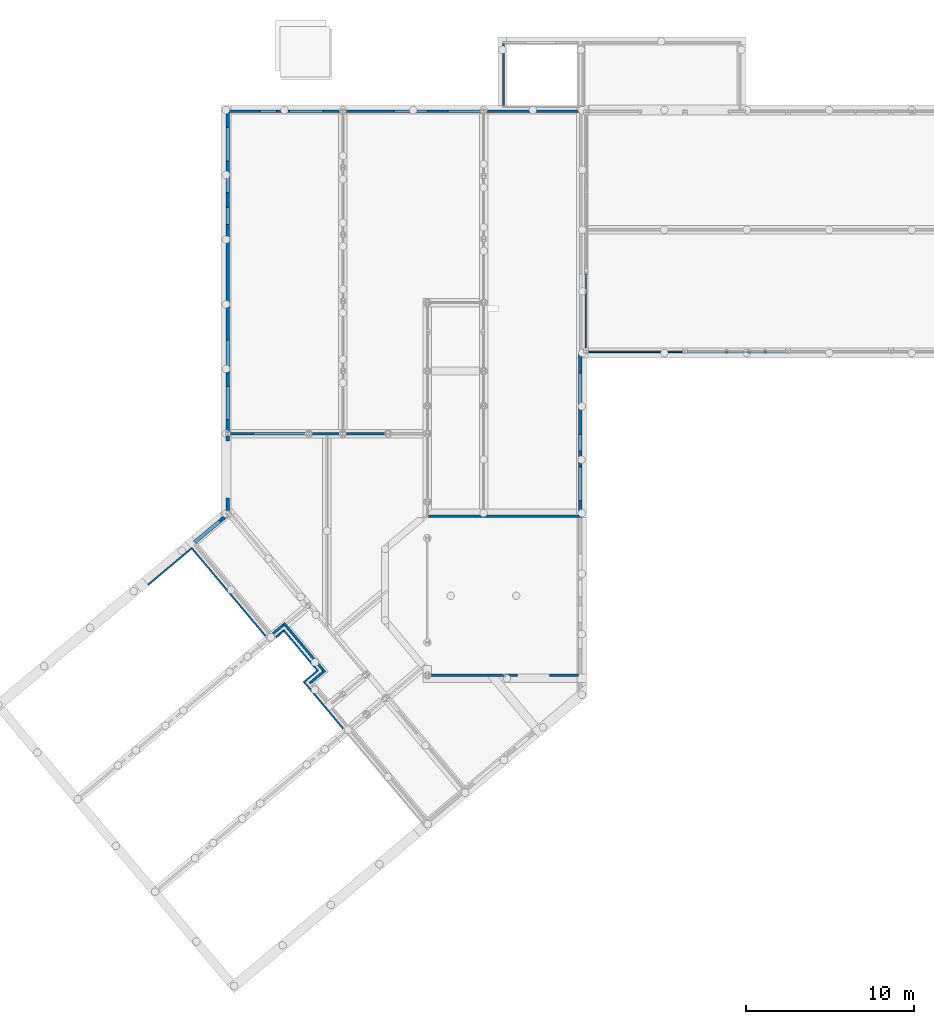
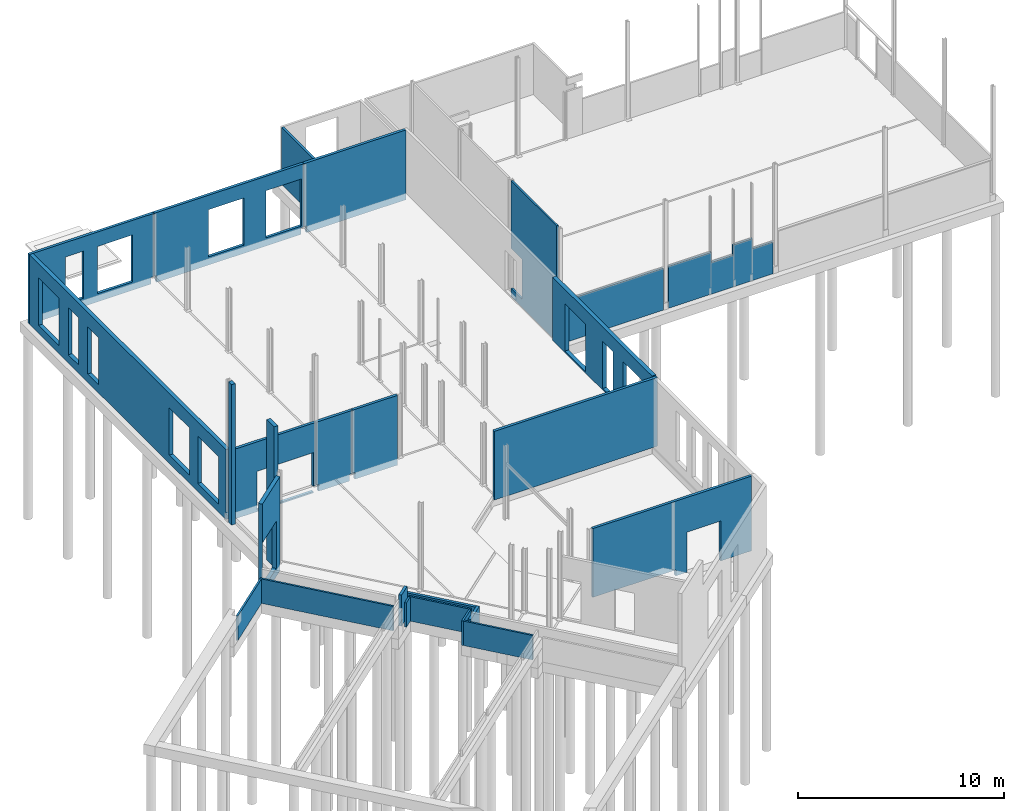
# One storey, part 16 of 18: 26 walls, 28 openings.
"""IFC2X3 building model written with IfcOpenShell, lengths in millimetres."""

from ifc_helpers import new_model, entity, si_unit, converted_unit, derived_unit, direction, frame, frame_2d, origin, origin_2d_with_axis, place, context, subcontext, project, spatial, rectangle, extrude, clip, halfspace, material, layer, layer_set, layer_usage, type_object, element, save


model = new_model("IFC2X3")

# Units and contexts
model_context = context("Model", 3, precision=0.01, world=origin(), true_north=direction((6.12303176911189e-17, 1.0)))
body_context = subcontext(model_context, "Body", "Model", "MODEL_VIEW")
ifc_project = project(units=[si_unit("LENGTHUNIT", "METRE", prefix="MILLI"), si_unit("AREAUNIT", "SQUARE_METRE"), si_unit("VOLUMEUNIT", "CUBIC_METRE"), converted_unit("PLANEANGLEUNIT", "DEGREE", entity("IfcRatioMeasure", 0.0174532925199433), si_unit("PLANEANGLEUNIT", "RADIAN"), dimensions=[0, 0, 0, 0, 0, 0, 0]), si_unit("MASSUNIT", "GRAM", prefix="KILO"), derived_unit("MASSDENSITYUNIT", [(si_unit("MASSUNIT", "GRAM", prefix="KILO"), 1), (si_unit("LENGTHUNIT", "METRE"), -3)]), derived_unit("MOMENTOFINERTIAUNIT", [(si_unit("LENGTHUNIT", "METRE"), 4)]), si_unit("TIMEUNIT", "SECOND"), si_unit("FREQUENCYUNIT", "HERTZ"), si_unit("THERMODYNAMICTEMPERATUREUNIT", "DEGREE_CELSIUS"), derived_unit("THERMALTRANSMITTANCEUNIT", [(si_unit("MASSUNIT", "GRAM", prefix="KILO"), 1), (si_unit("THERMODYNAMICTEMPERATUREUNIT", "KELVIN"), -1), (si_unit("TIMEUNIT", "SECOND"), -3)]), derived_unit("VOLUMETRICFLOWRATEUNIT", [(si_unit("LENGTHUNIT", "METRE"), 3), (si_unit("TIMEUNIT", "SECOND"), -1)]), si_unit("ELECTRICCURRENTUNIT", "AMPERE"), si_unit("ELECTRICVOLTAGEUNIT", "VOLT"), si_unit("POWERUNIT", "WATT"), si_unit("FORCEUNIT", "NEWTON", prefix="KILO"), si_unit("ILLUMINANCEUNIT", "LUX"), si_unit("LUMINOUSFLUXUNIT", "LUMEN"), si_unit("LUMINOUSINTENSITYUNIT", "CANDELA"), derived_unit("USERDEFINED", [(si_unit("MASSUNIT", "GRAM", prefix="KILO"), -1), (si_unit("LENGTHUNIT", "METRE"), -2), (si_unit("TIMEUNIT", "SECOND"), 3), (si_unit("LUMINOUSFLUXUNIT", "LUMEN"), 1)]), derived_unit("LINEARVELOCITYUNIT", [(si_unit("LENGTHUNIT", "METRE"), 1), (si_unit("TIMEUNIT", "SECOND"), -1)]), si_unit("PRESSUREUNIT", "PASCAL"), derived_unit("USERDEFINED", [(si_unit("LENGTHUNIT", "METRE"), -2), (si_unit("MASSUNIT", "GRAM", prefix="KILO"), 1), (si_unit("TIMEUNIT", "SECOND"), -2)]), derived_unit("LINEARFORCEUNIT", [(si_unit("MASSUNIT", "GRAM", prefix="KILO"), 1), (si_unit("LENGTHUNIT", "METRE"), 1), (si_unit("TIMEUNIT", "SECOND"), -2), (si_unit("LENGTHUNIT", "METRE"), -1)]), derived_unit("PLANARFORCEUNIT", [(si_unit("MASSUNIT", "GRAM", prefix="KILO"), 1), (si_unit("LENGTHUNIT", "METRE"), 1), (si_unit("TIMEUNIT", "SECOND"), -2), (si_unit("LENGTHUNIT", "METRE"), -2)])], contexts=[model_context])

# Site, building, storey
site_placement = place(None, origin())
site = spatial("IfcSite", under=ifc_project, at=site_placement, Name="Default", CompositionType="ELEMENT")
building_placement = place(site_placement, origin())
building = spatial("IfcBuilding", under=site, at=building_placement, CompositionType="ELEMENT")
storey_placement = place(building_placement, frame((0.0, 0.0, -1085.0)))
storey = spatial("IfcBuildingStorey", under=building, at=storey_placement, Name="-00 fundatie", CompositionType="ELEMENT", Elevation=-1085.0)

# Wall, openings
ifc_material_1 = material(Name="f1_kalkzandsteen")
ifc_layer_1 = layer(ifc_material_1, 214.0)
ifc_layer_set_1 = layer_set([ifc_layer_1], Name="Basic Wall:BERSnl_22_WA_kalkzandsteen214")
ifc_layer_usage_1 = layer_usage(ifc_layer_set_1, "AXIS2", "NEGATIVE", 107.0)
wall_type_1 = type_object("IfcWallType", Name="Basic Wall:BERSnl_22_WA_kalkzandsteen214", PredefinedType="STANDARD", material=ifc_layer_set_1)
wall_1_placement = place(storey_placement, frame((13702.4349765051, 16287.2966282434, 600.0), z_axis=(0.0, 0.0, 1.0), x_axis=(0.0, 1.0, 0.0)))
wall_1 = element("IfcWallStandardCase", 1, at=wall_1_placement, inside=storey, type_object=wall_type_1, material=ifc_layer_usage_1, Name="Basic Wall:BERSnl_22_WA_kalkzandsteen214", ObjectType="Basic Wall:BERSnl_22_WA_kalkzandsteen214", context=body_context, shape_type="SweptSolid", body=[
    extrude(rectangle(XDim=19059.0, YDim=213.999999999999, at=frame_2d((9529.49999999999, 3.41060513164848e-13), x_axis=(-1.0, 0.0))), origin(), (0.0, 0.0, 1.0), 4135.0),
])
opening_1_placement = place(wall_1_placement, origin())
element("IfcOpeningElement", 2, at=opening_1_placement, cuts=wall_1, Name="Basic Wall:BERSnl_22_WA_kalkzandsteen214", ObjectType="Opening", context=body_context, shape_type="SweptSolid", body=[
    extrude(rectangle(XDim=2800.00000000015, YDim=1986.0, at=origin_2d_with_axis()), frame((17174.0, -107.0, 1885.0), z_axis=(0.0, 1.0, 0.0), x_axis=(0.0, 0.0, -1.0)), (0.0, 0.0, 1.0), 213.999999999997),
])
opening_2_placement = place(wall_1_placement, origin())
element("IfcOpeningElement", 3, at=opening_2_placement, cuts=wall_1, Name="Basic Wall:BERSnl_22_WA_kalkzandsteen214", ObjectType="Opening", context=body_context, shape_type="SweptSolid", body=[
    extrude(rectangle(XDim=2798.00469337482, YDim=1038.0, at=frame_2d((0.0, -2.1600499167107e-12), x_axis=(1.0, 0.0))), frame((12888.1777390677, -107.0, 1884.00234668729), z_axis=(0.0, 1.0, 0.0), x_axis=(0.0, 0.0, -1.0)), (0.0, 0.0, 1.0), 213.999999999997),
])
opening_3_placement = place(wall_1_placement, origin())
element("IfcOpeningElement", 4, at=opening_3_placement, cuts=wall_1, Name="Basic Wall:BERSnl_22_WA_kalkzandsteen214", ObjectType="Opening", context=body_context, shape_type="SweptSolid", body=[
    extrude(rectangle(XDim=2801.44984403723, YDim=1986.0, at=origin_2d_with_axis()), frame((4500.17773906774, -107.0, 1885.72492201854), z_axis=(0.0, 1.0, 0.0), x_axis=(0.0, 0.0, -1.0)), (0.0, 0.0, 1.0), 213.999999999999),
])
opening_4_placement = place(wall_1_placement, origin())
element("IfcOpeningElement", 5, at=opening_4_placement, cuts=wall_1, Name="Basic Wall:BERSnl_22_WA_kalkzandsteen214", ObjectType="Opening", context=body_context, shape_type="SweptSolid", body=[
    extrude(rectangle(XDim=2801.44984403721, YDim=1986.44267041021, at=origin_2d_with_axis()), frame((1729.95640386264, -107.0, 1885.72492201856), z_axis=(0.0, 1.0, 0.0), x_axis=(0.0, 0.0, -1.0)), (0.0, 0.0, 1.0), 213.999999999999),
])
opening_5_placement = place(wall_1_placement, origin())
element("IfcOpeningElement", 6, at=opening_5_placement, cuts=wall_1, Name="Basic Wall:BERSnl_22_WA_kalkzandsteen214", ObjectType="Opening", context=body_context, shape_type="SweptSolid", body=[
    extrude(rectangle(XDim=2799.99999999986, YDim=986.000000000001, at=origin_2d_with_axis()), frame((14794.1777390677, -107.0, 1885.0), z_axis=(0.0, 1.0, 0.0), x_axis=(0.0, 0.0, -1.0)), (0.0, 0.0, 1.0), 213.999999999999),
])

# Walls
ifc_layer_usage_2 = layer_usage(ifc_layer_set_1, "AXIS2", "NEGATIVE", 107.0)
wall_2_placement = place(storey_placement, frame((13702.4349765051, 15731.2441702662, 600.0), z_axis=(0.0, 0.0, 1.0), x_axis=(0.0, 1.0, 0.0)))
element("IfcWallStandardCase", 7, at=wall_2_placement, inside=storey, type_object=wall_type_1, material=ifc_layer_usage_2, Name="Basic Wall:BERSnl_22_WA_kalkzandsteen214", ObjectType="Basic Wall:BERSnl_22_WA_kalkzandsteen214", context=body_context, shape_type="SweptSolid", body=[
    extrude(rectangle(XDim=301.052457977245, YDim=213.999999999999, at=frame_2d((150.526228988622, 0.0), x_axis=(-1.0, 0.0))), origin(), (0.0, 0.0, 1.0), 8325.0),
])
ifc_layer_usage_3 = layer_usage(ifc_layer_set_1, "AXIS2", "NEGATIVE", 107.0)
wall_3_placement = place(storey_placement, frame((13702.4349765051, 11611.2441702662, 600.0), z_axis=(0.0, 0.0, 1.0), x_axis=(0.0, 1.0, 0.0)))
element("IfcWallStandardCase", 8, at=wall_3_placement, inside=storey, type_object=wall_type_1, material=ifc_layer_usage_3, Name="Basic Wall:BERSnl_22_WA_kalkzandsteen214", ObjectType="Basic Wall:BERSnl_22_WA_kalkzandsteen214", context=body_context, shape_type="SweptSolid", body=[
    extrude(rectangle(XDim=719.999999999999, YDim=213.999999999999, at=frame_2d((359.999999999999, 0.0), x_axis=(-1.0, 0.0))), origin(), (0.0, 0.0, 1.0), 8325.0),
])

# Wall, opening
ifc_layer_usage_4 = layer_usage(ifc_layer_set_1, "AXIS2", "NEGATIVE", 107.0)
wall_4_placement = place(storey_placement, frame((11720.6058077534, 9695.07743050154, 600.0), z_axis=(0.0, 0.0, 1.0), x_axis=(0.766044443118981, 0.642787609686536, 0.0)))
wall_4 = element("IfcWallStandardCase", 9, at=wall_4_placement, inside=storey, type_object=wall_type_1, material=ifc_layer_usage_4, Name="Basic Wall:BERSnl_22_WA_kalkzandsteen214", ObjectType="Basic Wall:BERSnl_22_WA_kalkzandsteen214", context=body_context, shape_type="SweptSolid", body=[
    extrude(rectangle(XDim=2510.0000000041, YDim=214.0, at=frame_2d((1255.00000000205, 1.56319401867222e-13), x_axis=(-1.0, 0.0))), origin(), (0.0, 0.0, 1.0), 5585.0),
])
opening_6_placement = place(wall_4_placement, origin())
element("IfcOpeningElement", 10, at=opening_6_placement, cuts=wall_4, Name="Basic Wall:BERSnl_22_WA_kalkzandsteen214", ObjectType="Opening", context=body_context, shape_type="SweptSolid", body=[
    extrude(rectangle(XDim=2800.0, YDim=1968.62320900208, at=frame_2d((0.0, -4.54747350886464e-13), x_axis=(1.0, 0.0))), frame((985.307799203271, -107.0, 1885.0), z_axis=(0.0, 1.0, 0.0), x_axis=(0.0, 0.0, -1.0)), (0.0, 0.0, 1.0), 213.999999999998),
])

# Wall, openings
ifc_layer_usage_5 = layer_usage(ifc_layer_set_1, "AXIS2", "NEGATIVE", 107.0)
wall_5_placement = place(storey_placement, frame((34726.4270571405, 11342.2966282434, 995.0), z_axis=(0.0, 0.0, 1.0), x_axis=(0.0, 1.0, 0.0)))
wall_5 = element("IfcWallStandardCase", 11, at=wall_5_placement, inside=storey, type_object=wall_type_1, material=ifc_layer_usage_5, Name="Basic Wall:BERSnl_22_WA_kalkzandsteen214", ObjectType="Basic Wall:BERSnl_22_WA_kalkzandsteen214", context=body_context, shape_type="SweptSolid", body=[
    extrude(rectangle(XDim=9654.00000000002, YDim=214.000000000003, at=frame_2d((4827.00000000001, -5.47117906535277e-13), x_axis=(-1.0, 0.0))), origin(), (0.0, 0.0, 1.0), 3740.0),
])
opening_7_placement = place(wall_5_placement, origin())
element("IfcOpeningElement", 12, at=opening_7_placement, cuts=wall_5, Name="Basic Wall:BERSnl_22_WA_kalkzandsteen214", ObjectType="Opening", context=body_context, shape_type="SweptSolid", body=[
    extrude(rectangle(XDim=2800.0, YDim=1995.0, at=frame_2d((0.0, -1.08002495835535e-12), x_axis=(1.0, 0.0))), frame((7459.83704211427, -107.0, 1490.0), z_axis=(0.0, 1.0, 0.0), x_axis=(0.0, 0.0, -1.0)), (0.0, 0.0, 1.0), 214.000000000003),
])
opening_8_placement = place(wall_5_placement, origin())
element("IfcOpeningElement", 13, at=opening_8_placement, cuts=wall_5, Name="Basic Wall:BERSnl_22_WA_kalkzandsteen214", ObjectType="Opening", context=body_context, shape_type="SweptSolid", body=[
    extrude(rectangle(XDim=2799.99999999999, YDim=985.999999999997, at=origin_2d_with_axis()), frame((4305.33704211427, -107.0, 1490.0), z_axis=(0.0, 1.0, 0.0), x_axis=(0.0, 0.0, -1.0)), (0.0, 0.0, 1.0), 214.000000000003),
])
opening_9_placement = place(wall_5_placement, origin())
element("IfcOpeningElement", 14, at=opening_9_placement, cuts=wall_5, Name="Basic Wall:BERSnl_22_WA_kalkzandsteen214", ObjectType="Opening", context=body_context, shape_type="SweptSolid", body=[
    extrude(rectangle(XDim=2800.0, YDim=1986.0, at=frame_2d((0.0, -1.13686837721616e-12), x_axis=(1.0, 0.0))), frame((1845.31397196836, -107.0, 1490.0), z_axis=(0.0, 1.0, 0.0), x_axis=(0.0, 0.0, -1.0)), (0.0, 0.0, 1.0), 214.000000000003),
])

ifc_layer_2 = layer(ifc_material_1, 150.0)
ifc_layer_set_2 = layer_set([ifc_layer_2], Name="Basic Wall:BERSnl_22_WA_kalkzandsteen150")
ifc_layer_usage_6 = layer_usage(ifc_layer_set_2, "AXIS2", "NEGATIVE", 75.0)
wall_type_2 = type_object("IfcWallType", Name="Basic Wall:BERSnl_22_WA_kalkzandsteen150", PredefinedType="STANDARD", material=ifc_layer_set_2)
wall_6_placement = place(storey_placement, frame((13595.4349765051, 35421.2966282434, 600.0)))
wall_6 = element("IfcWallStandardCase", 15, at=wall_6_placement, inside=storey, type_object=wall_type_2, material=ifc_layer_usage_6, Name="Basic Wall:BERSnl_22_WA_kalkzandsteen150", ObjectType="Basic Wall:BERSnl_22_WA_kalkzandsteen150", context=body_context, shape_type="SweptSolid", body=[
    extrude(rectangle(XDim=6964.0, YDim=150.000000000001, at=frame_2d((3482.0, 0.0), x_axis=(-1.0, 0.0))), origin(), (0.0, 0.0, 1.0), 4135.0),
])
opening_10_placement = place(wall_6_placement, origin())
element("IfcOpeningElement", 16, at=opening_10_placement, cuts=wall_6, Name="Basic Wall:BERSnl_22_WA_kalkzandsteen150", ObjectType="Opening", context=body_context, shape_type="SweptSolid", body=[
    extrude(rectangle(XDim=2792.99999999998, YDim=985.999999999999, at=frame_2d((0.0, -1.10844666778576e-12), x_axis=(1.0, 0.0))), frame((2525.0, -75.0, 1881.49999999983), z_axis=(0.0, 1.0, 0.0), x_axis=(0.0, 0.0, -1.0)), (0.0, 0.0, 1.0), 150.000000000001),
])
opening_11_placement = place(wall_6_placement, origin())
element("IfcOpeningElement", 17, at=opening_11_placement, cuts=wall_6, Name="Basic Wall:BERSnl_22_WA_kalkzandsteen150", ObjectType="Opening", context=body_context, shape_type="SweptSolid", body=[
    extrude(rectangle(XDim=2792.99999999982, YDim=1986.0, at=origin_2d_with_axis()), frame((4795.0, -75.0, 1881.49999999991), z_axis=(0.0, 1.0, 0.0), x_axis=(0.0, 0.0, -1.0)), (0.0, 0.0, 1.0), 150.000000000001),
])
opening_12_placement = place(wall_6_placement, origin())
element("IfcOpeningElement", 18, at=opening_12_placement, cuts=wall_6, Name="Basic Wall:BERSnl_22_WA_kalkzandsteen150", ObjectType="Opening", context=body_context, shape_type="SweptSolid", body=[
    extrude(rectangle(XDim=395.0, YDim=139.999999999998, at=frame_2d((2.16715534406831e-12, -4.48636683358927e-11), x_axis=(0.0, 1.0))), frame((6894.0, 75.0, 197.499999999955), z_axis=(0.0, -1.0, 0.0), x_axis=(1.0, 0.0, 0.0)), (0.0, 0.0, 1.0), 150.0),
])

ifc_layer_usage_7 = layer_usage(ifc_layer_set_2, "AXIS2", "POSITIVE", -75.0)
wall_7_placement = place(storey_placement, frame((28949.4349765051, 35421.2966282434, 600.0), z_axis=(0.0, 0.0, 1.0), x_axis=(-1.0, 0.0, 0.0)))
wall_7 = element("IfcWallStandardCase", 19, at=wall_7_placement, inside=storey, type_object=wall_type_2, material=ifc_layer_usage_7, Name="Basic Wall:BERSnl_22_WA_kalkzandsteen150", ObjectType="Basic Wall:BERSnl_22_WA_kalkzandsteen150", context=body_context, shape_type="SweptSolid", body=[
    extrude(rectangle(XDim=8360.00000000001, YDim=150.000000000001, at=frame_2d((4180.0, 0.0), x_axis=(-1.0, 0.0))), origin(), (0.0, 0.0, 1.0), 4135.0),
])
opening_13_placement = place(wall_7_placement, origin())
element("IfcOpeningElement", 20, at=opening_13_placement, cuts=wall_7, Name="Basic Wall:BERSnl_22_WA_kalkzandsteen150", ObjectType="Opening", context=body_context, shape_type="SweptSolid", body=[
    extrude(rectangle(XDim=2792.99999999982, YDim=1986.0, at=origin_2d_with_axis()), frame((4329.0, -75.0, 1881.49999999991), z_axis=(0.0, 1.0, 0.0), x_axis=(0.0, 0.0, -1.0)), (0.0, 0.0, 1.0), 150.000000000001),
])
opening_14_placement = place(wall_7_placement, origin())
element("IfcOpeningElement", 21, at=opening_14_placement, cuts=wall_7, Name="Basic Wall:BERSnl_22_WA_kalkzandsteen150", ObjectType="Opening", context=body_context, shape_type="SweptSolid", body=[
    extrude(rectangle(XDim=2792.99999999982, YDim=1992.00000000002, at=origin_2d_with_axis()), frame((1116.0, -75.0, 1881.49999999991), z_axis=(0.0, 1.0, 0.0), x_axis=(0.0, 0.0, -1.0)), (0.0, 0.0, 1.0), 150.000000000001),
])
opening_15_placement = place(wall_7_placement, origin())
element("IfcOpeningElement", 22, at=opening_15_placement, cuts=wall_7, Name="Basic Wall:BERSnl_22_WA_kalkzandsteen150", ObjectType="Opening", context=body_context, shape_type="SweptSolid", body=[
    extrude(rectangle(XDim=395.0, YDim=130.000000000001, at=frame_2d((2.16715534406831e-12, -4.49773551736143e-11), x_axis=(0.0, 1.0))), frame((8295.0, 75.0, 197.499999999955), z_axis=(0.0, -1.0, 0.0), x_axis=(1.0, 0.0, 0.0)), (0.0, 0.0, 1.0), 150.0),
])
opening_16_placement = place(wall_7_placement, origin())
element("IfcOpeningElement", 23, at=opening_16_placement, cuts=wall_7, Name="Basic Wall:BERSnl_22_WA_kalkzandsteen150", ObjectType="Opening", context=body_context, shape_type="SweptSolid", body=[
    extrude(rectangle(XDim=394.999999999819, YDim=130.000000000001, at=frame_2d((4.5162096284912e-11, 2.1600499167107e-12), x_axis=(1.0, 0.0))), frame((65.0, 75.0, 197.499999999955), z_axis=(0.0, -1.0, 0.0), x_axis=(0.0, 0.0, -1.0)), (0.0, 0.0, 1.0), 150.0),
])

# Wall, opening
ifc_layer_usage_8 = layer_usage(ifc_layer_set_2, "AXIS2", "NEGATIVE", 75.0)
wall_8_placement = place(storey_placement, frame((28984.4349765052, 35421.2966282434, 600.0)))
wall_8 = element("IfcWallStandardCase", 24, at=wall_8_placement, inside=storey, type_object=wall_type_2, material=ifc_layer_usage_8, Name="Basic Wall:BERSnl_22_WA_kalkzandsteen150", ObjectType="Basic Wall:BERSnl_22_WA_kalkzandsteen150", context=body_context, shape_type="SweptSolid", body=[
    extrude(rectangle(XDim=5698.99208063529, YDim=150.000000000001, at=frame_2d((2849.49604031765, 0.0), x_axis=(-1.0, 0.0))), origin(), (0.0, 0.0, 1.0), 4135.0),
])
opening_17_placement = place(wall_8_placement, origin())
element("IfcOpeningElement", 25, at=opening_17_placement, cuts=wall_8, Name="Basic Wall:BERSnl_22_WA_kalkzandsteen150", ObjectType="Opening", context=body_context, shape_type="SweptSolid", body=[
    extrude(rectangle(XDim=394.999999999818, YDim=135.0, at=frame_2d((4.55600002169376e-11, -2.1600499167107e-12), x_axis=(1.0, 0.0))), frame((67.5000000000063, 75.0, 197.499999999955), z_axis=(0.0, -1.0, 0.0), x_axis=(0.0, 0.0, -1.0)), (0.0, 0.0, 1.0), 150.0),
])

# Wall
ifc_layer_usage_9 = layer_usage(ifc_layer_set_2, "AXIS2", "NEGATIVE", 75.0)
wall_9_placement = place(storey_placement, frame((34833.4270571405, 11267.2966282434, 600.0), z_axis=(0.0, 0.0, 1.0), x_axis=(-1.0, 0.0, 0.0)))
element("IfcWallStandardCase", 26, at=wall_9_placement, inside=storey, type_object=wall_type_2, material=ifc_layer_usage_9, Name="Basic Wall:BERSnl_22_WA_kalkzandsteen150", ObjectType="Basic Wall:BERSnl_22_WA_kalkzandsteen150", context=body_context, shape_type="SweptSolid", body=[
    extrude(rectangle(XDim=9137.99208063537, YDim=150.000000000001, at=frame_2d((4568.99604031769, 5.04485342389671e-13), x_axis=(-1.0, 0.0))), origin(), (0.0, 0.0, 1.0), 4074.99999999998),
])

# Wall, openings
ifc_layer_usage_10 = layer_usage(ifc_layer_set_2, "AXIS2", "NEGATIVE", 75.0)
wall_10_placement = place(storey_placement, frame((25720.4349765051, 1752.29662827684, 250.0)))
wall_10 = element("IfcWallStandardCase", 27, at=wall_10_placement, inside=storey, type_object=wall_type_2, material=ifc_layer_usage_10, Name="Basic Wall:BERSnl_22_WA_kalkzandsteen150", ObjectType="Basic Wall:BERSnl_22_WA_kalkzandsteen150", context=body_context, shape_type="SweptSolid", body=[
    extrude(rectangle(XDim=8898.99208063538, YDim=150.0, at=frame_2d((4449.49604031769, 7.105427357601e-14), x_axis=(-1.0, 0.0))), origin(), (0.0, 0.0, 1.0), 4425.0),
])
opening_18_placement = place(wall_10_placement, origin())
element("IfcOpeningElement", 28, at=opening_18_placement, cuts=wall_10, Name="Basic Wall:BERSnl_22_WA_kalkzandsteen150", ObjectType="Opening", context=body_context, shape_type="SweptSolid", body=[
    extrude(rectangle(XDim=2417.00000000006, YDim=1904.61819432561, at=frame_2d((0.0, -2.1600499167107e-12), x_axis=(1.0, 0.0))), frame((6214.68298347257, -75.0, 1158.50000000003), z_axis=(0.0, 1.0, 0.0), x_axis=(0.0, 0.0, -1.0)), (0.0, 0.0, 1.0), 150.0),
])
opening_19_placement = place(wall_10_placement, origin())
element("IfcOpeningElement", 29, at=opening_19_placement, cuts=wall_10, Name="Basic Wall:BERSnl_22_WA_kalkzandsteen150", ObjectType="Opening", context=body_context, shape_type="SweptSolid", body=[
    extrude(rectangle(XDim=350.00000000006, YDim=4643.62100369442, at=frame_2d((0.0, 2.04636307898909e-12), x_axis=(1.0, 0.0))), frame((2321.81050184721, 75.0, 175.0), z_axis=(0.0, -1.0, 0.0), x_axis=(0.0, 0.0, 1.0)), (0.0, 0.0, 1.0), 150.0),
])

# Walls
ifc_layer_usage_11 = layer_usage(ifc_layer_set_2, "AXIS2", "NEGATIVE", 75.0)
wall_11_placement = place(storey_placement, frame((18584.6888197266, 1281.42326709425, 600.0), z_axis=(0.0, 0.0, 1.0), x_axis=(0.766044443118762, 0.642787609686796, 0.0)))
element("IfcWallStandardCase", 30, at=wall_11_placement, inside=storey, type_object=wall_type_2, material=ifc_layer_usage_11, Name="Basic Wall:BERSnl_22_WA_kalkzandsteen150", ObjectType="Basic Wall:BERSnl_22_WA_kalkzandsteen150", context=body_context, shape_type="SweptSolid", body=[
    extrude(rectangle(XDim=1204.61946980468, YDim=149.999999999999, at=frame_2d((602.309734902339, 3.5527136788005e-14), x_axis=(-1.0, 0.0))), origin(), (0.0, 0.0, 1.0), 1450.0),
])
ifc_layer_usage_12 = layer_usage(ifc_layer_set_2, "AXIS2", "NEGATIVE", 75.0)
wall_12_placement = place(storey_placement, frame((19401.8184666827, 2064.98199917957, 600.0), z_axis=(0.0, 0.0, 1.0), x_axis=(-0.642787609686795, 0.766044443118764, 0.0)))
element("IfcWallStandardCase", 31, at=wall_12_placement, inside=storey, type_object=wall_type_2, material=ifc_layer_usage_12, Name="Basic Wall:BERSnl_22_WA_kalkzandsteen150", ObjectType="Basic Wall:BERSnl_22_WA_kalkzandsteen150", context=body_context, shape_type="SweptSolid", body=[
    extrude(rectangle(XDim=3675.38053019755, YDim=150.000000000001, at=frame_2d((1837.69026509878, 1.91846538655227e-13), x_axis=(-1.0, 0.0))), origin(), (0.0, 0.0, 1.0), 1450.0),
])
ifc_layer_usage_13 = layer_usage(ifc_layer_set_2, "AXIS2", "NEGATIVE", 75.0)
wall_13_placement = place(storey_placement, frame((16413.4193617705, 4257.38040092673, 600.0), z_axis=(0.0, 0.0, 1.0), x_axis=(0.766044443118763, 0.642787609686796, 0.0)))
element("IfcWallStandardCase", 32, at=wall_13_placement, inside=storey, type_object=wall_type_2, material=ifc_layer_usage_13, Name="Basic Wall:BERSnl_22_WA_kalkzandsteen150", ObjectType="Basic Wall:BERSnl_22_WA_kalkzandsteen150", context=body_context, shape_type="SweptSolid", body=[
    extrude(rectangle(XDim=804.999999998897, YDim=150.0, at=frame_2d((402.499999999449, 1.35003119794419e-13), x_axis=(-1.0, 0.0))), origin(), (0.0, 0.0, 1.0), 1845.0),
])

# Wall, openings
ifc_layer_usage_14 = layer_usage(ifc_layer_set_2, "AXIS2", "NEGATIVE", 75.0)
wall_14_placement = place(storey_placement, frame((13720.4349765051, 16182.2966282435, 600.0)))
wall_14 = element("IfcWallStandardCase", 33, at=wall_14_placement, inside=storey, type_object=wall_type_2, material=ifc_layer_usage_14, Name="Basic Wall:BERSnl_22_WA_kalkzandsteen150", ObjectType="Basic Wall:BERSnl_22_WA_kalkzandsteen150", context=body_context, shape_type="SweptSolid", body=[
    extrude(rectangle(XDim=4799.31885379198, YDim=150.000000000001, at=frame_2d((2399.65942689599, 7.31859017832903e-13), x_axis=(-1.0, 0.0))), origin(), (0.0, 0.0, 1.0), 4135.0),
])
opening_20_placement = place(wall_14_placement, origin())
element("IfcOpeningElement", 34, at=opening_20_placement, cuts=wall_14, Name="Basic Wall:BERSnl_22_WA_kalkzandsteen150", ObjectType="Opening", context=body_context, shape_type="SweptSolid", body=[
    extrude(rectangle(XDim=2299.99999999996, YDim=3144.31885379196, at=frame_2d((0.0, 1.02318153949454e-12), x_axis=(1.0, 0.0))), frame((3097.159426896, -75.0, 1240.0), z_axis=(0.0, 1.0, 0.0), x_axis=(0.0, 0.0, -1.0)), (0.0, 0.0, 1.0), 150.000000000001),
])
opening_21_placement = place(wall_14_placement, origin())
element("IfcOpeningElement", 35, at=opening_21_placement, cuts=wall_14, Name="Basic Wall:BERSnl_22_WA_kalkzandsteen150", ObjectType="Opening", context=body_context, shape_type="SweptSolid", body=[
    extrude(rectangle(XDim=395.0, YDim=130.000000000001, at=frame_2d((0.0, -9.79127889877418e-12), x_axis=(0.0, 1.0))), frame((4734.31885379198, 75.0, 197.49999999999), z_axis=(0.0, -1.0, 0.0), x_axis=(1.0, 0.0, 0.0)), (0.0, 0.0, 1.0), 150.0),
])
opening_22_placement = place(wall_14_placement, origin())
element("IfcOpeningElement", 36, at=opening_22_placement, cuts=wall_14, Name="Basic Wall:BERSnl_22_WA_kalkzandsteen150", ObjectType="Opening", context=body_context, shape_type="SweptSolid", body=[
    extrude(rectangle(XDim=394.999999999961, YDim=135.0, at=frame_2d((9.64917035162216e-12, 2.1600499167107e-12), x_axis=(1.0, 0.0))), frame((67.500000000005, 75.0, 197.49999999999), z_axis=(0.0, -1.0, 0.0), x_axis=(0.0, 0.0, -1.0)), (0.0, 0.0, 1.0), 150.0),
])

ifc_layer_usage_15 = layer_usage(ifc_layer_set_2, "AXIS2", "NEGATIVE", 75.0)
wall_15_placement = place(storey_placement, frame((18564.7538302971, 16182.2966282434, 600.0)))
wall_15 = element("IfcWallStandardCase", 37, at=wall_15_placement, inside=storey, type_object=wall_type_2, material=ifc_layer_usage_15, Name="Basic Wall:BERSnl_22_WA_kalkzandsteen150", ObjectType="Basic Wall:BERSnl_22_WA_kalkzandsteen150", context=body_context, shape_type="SweptSolid", body=[
    extrude(rectangle(XDim=1974.68114620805, YDim=150.000000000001, at=frame_2d((987.340573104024, -7.105427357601e-13), x_axis=(-1.0, 0.0))), origin(), (0.0, 0.0, 1.0), 4135.0),
])
opening_23_placement = place(wall_15_placement, origin())
element("IfcOpeningElement", 38, at=opening_23_placement, cuts=wall_15, Name="Basic Wall:BERSnl_22_WA_kalkzandsteen150", ObjectType="Opening", context=body_context, shape_type="SweptSolid", body=[
    extrude(rectangle(XDim=395.0, YDim=119.999999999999, at=frame_2d((0.0, -8.99547103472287e-12), x_axis=(0.0, 1.0))), frame((1914.68114620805, 75.0, 197.499999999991), z_axis=(0.0, -1.0, 0.0), x_axis=(1.0, 0.0, 0.0)), (0.0, 0.0, 1.0), 150.0),
])
opening_24_placement = place(wall_15_placement, origin())
element("IfcOpeningElement", 39, at=opening_24_placement, cuts=wall_15, Name="Basic Wall:BERSnl_22_WA_kalkzandsteen150", ObjectType="Opening", context=body_context, shape_type="SweptSolid", body=[
    extrude(rectangle(XDim=394.999999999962, YDim=124.999999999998, at=frame_2d((9.45021838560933e-12, 0.0), x_axis=(1.0, 0.0))), frame((62.5000000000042, 75.0, 197.499999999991), z_axis=(0.0, -1.0, 0.0), x_axis=(0.0, 0.0, -1.0)), (0.0, 0.0, 1.0), 150.0),
])

# Wall, opening
ifc_layer_usage_16 = layer_usage(ifc_layer_set_2, "AXIS2", "NEGATIVE", 75.0)
wall_16_placement = place(storey_placement, frame((20599.4349765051, 16182.2966282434, 600.0)))
wall_16 = element("IfcWallStandardCase", 40, at=wall_16_placement, inside=storey, type_object=wall_type_2, material=ifc_layer_usage_16, Name="Basic Wall:BERSnl_22_WA_kalkzandsteen150", ObjectType="Basic Wall:BERSnl_22_WA_kalkzandsteen150", context=body_context, shape_type="SweptSolid", body=[
    extrude(rectangle(XDim=2515.99999999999, YDim=150.000000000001, at=frame_2d((1258.0, 2.77111666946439e-13), x_axis=(-1.0, 0.0))), origin(), (0.0, 0.0, 1.0), 4135.00000000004),
])
opening_25_placement = place(wall_16_placement, origin())
element("IfcOpeningElement", 41, at=opening_25_placement, cuts=wall_16, Name="Basic Wall:BERSnl_22_WA_kalkzandsteen150", ObjectType="Opening", context=body_context, shape_type="SweptSolid", body=[
    extrude(rectangle(XDim=395.000000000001, YDim=119.999999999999, at=frame_2d((9.43600753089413e-12, 0.0), x_axis=(1.0, 0.0))), frame((60.0, 75.0, 197.50000000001), z_axis=(0.0, -1.0, 0.0), x_axis=(0.0, 0.0, -1.0)), (0.0, 0.0, 1.0), 150.0),
])

# Wall
ifc_layer_3 = layer(ifc_material_1, 120.0)
ifc_layer_set_3 = layer_set([ifc_layer_3], Name="Basic Wall:BERSnl_22_WA_kalkzandsteen 120_gen_ISR")
ifc_layer_usage_17 = layer_usage(ifc_layer_set_3, "AXIS2", "NEGATIVE", 60.0)
wall_type_3 = type_object("IfcWallType", Name="Basic Wall:BERSnl_22_WA_kalkzandsteen 120_gen_ISR", PredefinedType="STANDARD", material=ifc_layer_set_3)
wall_17_placement = place(storey_placement, frame((30165.4349765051, 35766.2966282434, 600.0), z_axis=(0.0, 0.0, 1.0), x_axis=(0.0, 1.0, 0.0)))
element("IfcWallStandardCase", 42, at=wall_17_placement, inside=storey, type_object=wall_type_3, material=ifc_layer_usage_17, Name="Basic Wall:BERSnl_22_WA_kalkzandsteen 120_gen_ISR", ObjectType="Basic Wall:BERSnl_22_WA_kalkzandsteen 120_gen_ISR", context=body_context, shape_type="SweptSolid", body=[
    extrude(rectangle(XDim=3709.99999999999, YDim=119.999999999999, at=frame_2d((1854.99999999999, 6.71462885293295e-13), x_axis=(-1.0, 0.0))), origin(), (0.0, 0.0, 1.0), 3385.0),
])

# Wall, opening
ifc_layer_4 = layer(ifc_material_1, 100.0)
ifc_layer_set_4 = layer_set([ifc_layer_4], Name="Basic Wall:BERSnl_22_WA_kalkzandsteen 100_gen_ISR")
ifc_layer_usage_18 = layer_usage(ifc_layer_set_4, "AXIS2", "POSITIVE", -50.0)
wall_type_4 = type_object("IfcWallType", Name="Basic Wall:BERSnl_22_WA_kalkzandsteen 100_gen_ISR", PredefinedType="STANDARD", material=ifc_layer_set_4)
wall_18_placement = place(storey_placement, frame((35063.4270571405, 25706.2966282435, 600.0), z_axis=(0.0, 0.0, 1.0), x_axis=(0.0, -1.0, 0.0)))
wall_18 = element("IfcWallStandardCase", 43, at=wall_18_placement, inside=storey, type_object=wall_type_4, material=ifc_layer_usage_18, Name="Basic Wall:BERSnl_22_WA_kalkzandsteen 100_gen_ISR", ObjectType="Basic Wall:BERSnl_22_WA_kalkzandsteen 100_gen_ISR", context=body_context, shape_type="Clipping", body=[
    clip(extrude(rectangle(XDim=4410.00000000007, YDim=100.000000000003, at=frame_2d((2205.00000000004, -9.73443547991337e-13), x_axis=(-1.0, 0.0))), origin(), (0.0, 0.0, 1.0), 6855.00000000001), halfspace(frame((0.0, -50.0, 6855.0), z_axis=(0.0, 0.0, 1.0), x_axis=(0.0, 1.0, 0.0)), False)),
])
opening_26_placement = place(wall_18_placement, origin())
element("IfcOpeningElement", 44, at=opening_26_placement, cuts=wall_18, Name="Basic Wall:BERSnl_22_WA_kalkzandsteen 100_gen_ISR", ObjectType="Opening", context=body_context, shape_type="SweptSolid", body=[
    extrude(rectangle(XDim=2367.00000000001, YDim=1034.0, at=origin_2d_with_axis()), frame((517.0, -50.0, 1668.4999999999), z_axis=(0.0, 1.0, 0.0), x_axis=(0.0, 0.0, -1.0)), (0.0, 0.0, 1.0), 100.000000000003),
])

# Walls
ifc_layer_usage_19 = layer_usage(ifc_layer_set_4, "AXIS2", "POSITIVE", -50.0)
wall_19_placement = place(storey_placement, frame((35239.4270571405, 21066.2966282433, 600.0)))
element("IfcWallStandardCase", 45, at=wall_19_placement, inside=storey, type_object=wall_type_4, material=ifc_layer_usage_19, Name="Basic Wall:BERSnl_22_WA_kalkzandsteen 100_gen_ISR", ObjectType="Basic Wall:BERSnl_22_WA_kalkzandsteen 100_gen_ISR", context=body_context, shape_type="SweptSolid", body=[
    extrude(rectangle(XDim=5594.00000000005, YDim=100.000000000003, at=frame_2d((2797.00000000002, 2.20268248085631e-13), x_axis=(-1.0, 0.0))), origin(), (0.0, 0.0, 1.0), 2485.0),
])
ifc_layer_usage_20 = layer_usage(ifc_layer_set_4, "AXIS2", "NEGATIVE", 50.0)
wall_20_placement = place(storey_placement, frame((8948.56529773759, 7164.11031651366, 600.0), z_axis=(0.0, 0.0, 1.0), x_axis=(0.76604444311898, 0.642787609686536, 0.0)))
element("IfcWallStandardCase", 46, at=wall_20_placement, inside=storey, type_object=wall_type_4, material=ifc_layer_usage_20, Name="Basic Wall:BERSnl_22_WA_kalkzandsteen 100_gen_ISR", ObjectType="Basic Wall:BERSnl_22_WA_kalkzandsteen 100_gen_ISR", context=body_context, shape_type="SweptSolid", body=[
    extrude(rectangle(XDim=3350.00000000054, YDim=99.9999999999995, at=frame_2d((1675.00000000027, 2.20268248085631e-13), x_axis=(-1.0, 0.0))), origin(), (0.0, 0.0, 1.0), 1450.0),
])

# Wall, openings
ifc_layer_usage_21 = layer_usage(ifc_layer_set_4, "AXIS2", "POSITIVE", -50.0)
wall_21_placement = place(storey_placement, frame((41133.4270571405, 21066.2966282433, 600.0)))
wall_21 = element("IfcWallStandardCase", 47, at=wall_21_placement, inside=storey, type_object=wall_type_4, material=ifc_layer_usage_21, Name="Basic Wall:BERSnl_22_WA_kalkzandsteen 100_gen_ISR", ObjectType="Basic Wall:BERSnl_22_WA_kalkzandsteen 100_gen_ISR", context=body_context, shape_type="SweptSolid", body=[
    extrude(rectangle(XDim=5850.00000000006, YDim=100.000000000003, at=frame_2d((2925.00000000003, -1.63424829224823e-13), x_axis=(-1.0, 0.0))), origin(), (0.0, 0.0, 1.0), 2485.0),
])
opening_27_placement = place(wall_21_placement, origin())
element("IfcOpeningElement", 48, at=opening_27_placement, cuts=wall_21, Name="Basic Wall:BERSnl_22_WA_kalkzandsteen 100_gen_ISR", ObjectType="Opening", context=body_context, shape_type="SweptSolid", body=[
    extrude(rectangle(XDim=600.0, YDim=1209.99999999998, at=frame_2d((1.13686837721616e-13, 0.0), x_axis=(1.0, 0.0))), frame((3005.0, -50.0, 2185.0), z_axis=(0.0, 1.0, 0.0), x_axis=(0.0, 0.0, -1.0)), (0.0, 0.0, 1.0), 100.000000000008),
])
opening_28_placement = place(wall_21_placement, origin())
element("IfcOpeningElement", 49, at=opening_28_placement, cuts=wall_21, Name="Basic Wall:BERSnl_22_WA_kalkzandsteen 100_gen_ISR", ObjectType="Opening", context=body_context, shape_type="SweptSolid", body=[
    extrude(rectangle(XDim=600.0, YDim=1150.00000000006, at=frame_2d((1.13686837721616e-13, -4.32009983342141e-12), x_axis=(1.0, 0.0))), frame((5275.0, -50.0, 2185.0), z_axis=(0.0, 1.0, 0.0), x_axis=(0.0, 0.0, -1.0)), (0.0, 0.0, 1.0), 100.000000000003),
])

# Walls
ifc_material_2 = material(Name="g2_metselwerk bruin")
ifc_layer_5 = layer(ifc_material_2, 100.0)
ifc_layer_set_5 = layer_set([ifc_layer_5], Name="Basic Wall:BERSnl_21_WA_metselwerk 100_gen_ISR")
ifc_layer_usage_22 = layer_usage(ifc_layer_set_5, "AXIS2", "NEGATIVE", 50.0)
wall_type_5 = type_object("IfcWallType", Name="Basic Wall:BERSnl_21_WA_metselwerk 100_gen_ISR", PredefinedType="STANDARD", material=ifc_layer_set_5)
wall_22_placement = place(storey_placement, frame((18215.875013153, 1331.43548947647, 600.0), z_axis=(0.0, 0.0, 1.0), x_axis=(0.766044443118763, 0.642787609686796, 0.0)))
element("IfcWallStandardCase", 50, at=wall_22_placement, inside=storey, type_object=wall_type_5, material=ifc_layer_usage_22, Name="Basic Wall:BERSnl_21_WA_metselwerk 100_gen_ISR", ObjectType="Basic Wall:BERSnl_21_WA_metselwerk 100_gen_ISR", context=body_context, shape_type="SweptSolid", body=[
    extrude(rectangle(XDim=1054.99999999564, YDim=100.000000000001, at=frame_2d((527.499999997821, -9.2370555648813e-14), x_axis=(-1.0, 0.0))), origin(), (0.0, 0.0, 1.0), 1450.0),
])
ifc_layer_usage_23 = layer_usage(ifc_layer_set_5, "AXIS2", "NEGATIVE", 50.0)
wall_23_placement = place(storey_placement, frame((19094.4935032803, 2003.41357602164, 600.0), z_axis=(0.0, 0.0, 1.0), x_axis=(-0.642787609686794, 0.766044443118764, 0.0)))
element("IfcWallStandardCase", 51, at=wall_23_placement, inside=storey, type_object=wall_type_5, material=ifc_layer_usage_23, Name="Basic Wall:BERSnl_21_WA_metselwerk 100_gen_ISR", ObjectType="Basic Wall:BERSnl_21_WA_metselwerk 100_gen_ISR", context=body_context, shape_type="SweptSolid", body=[
    extrude(rectangle(XDim=3225.00000000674, YDim=99.9999999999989, at=frame_2d((1612.50000000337, -1.63424829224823e-13), x_axis=(-1.0, 0.0))), origin(), (0.0, 0.0, 1.0), 1450.0),
])
ifc_layer_usage_24 = layer_usage(ifc_layer_set_5, "AXIS2", "NEGATIVE", 50.0)
wall_24_placement = place(storey_placement, frame((15956.2115306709, 4102.18375411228, 600.0), z_axis=(0.0, 0.0, 1.0), x_axis=(-0.642787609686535, 0.766044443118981, 0.0)))
element("IfcWallStandardCase", 52, at=wall_24_placement, inside=storey, type_object=wall_type_5, material=ifc_layer_usage_24, Name="Basic Wall:BERSnl_21_WA_metselwerk 100_gen_ISR", ObjectType="Basic Wall:BERSnl_21_WA_metselwerk 100_gen_ISR", context=body_context, shape_type="SweptSolid", body=[
    extrude(rectangle(XDim=6890.0, YDim=100.000000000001, at=frame_2d((3445.0, 4.76063632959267e-13), x_axis=(-1.0, 0.0))), origin(), (0.0, 0.0, 1.0), 1450.0),
])
ifc_layer_usage_25 = layer_usage(ifc_layer_set_5, "AXIS2", "NEGATIVE", 50.0)
wall_25_placement = place(storey_placement, frame((16590.1859544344, 4046.71817906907, 600.0), z_axis=(0.0, 0.0, 1.0), x_axis=(0.766044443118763, 0.642787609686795, 0.0)))
element("IfcWallStandardCase", 53, at=wall_25_placement, inside=storey, type_object=wall_type_5, material=ifc_layer_usage_25, Name="Basic Wall:BERSnl_21_WA_metselwerk 100_gen_ISR", ObjectType="Basic Wall:BERSnl_21_WA_metselwerk 100_gen_ISR", context=body_context, shape_type="SweptSolid", body=[
    extrude(rectangle(XDim=554.999999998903, YDim=100.000000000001, at=frame_2d((277.499999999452, 7.105427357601e-15), x_axis=(-1.0, 0.0))), origin(), (0.0, 0.0, 1.0), 1450.0),
])
ifc_layer_usage_26 = layer_usage(ifc_layer_set_5, "AXIS2", "NEGATIVE", 50.0)
wall_26_placement = place(storey_placement, frame((20584.2823204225, -1413.33623634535, 600.0), z_axis=(0.0, 0.0, 1.0), x_axis=(-0.642787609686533, 0.766044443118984, 0.0)))
element("IfcWallStandardCase", 54, at=wall_26_placement, inside=storey, type_object=wall_type_5, material=ifc_layer_usage_26, Name="Basic Wall:BERSnl_21_WA_metselwerk 100_gen_ISR", ObjectType="Basic Wall:BERSnl_21_WA_metselwerk 100_gen_ISR", context=body_context, shape_type="SweptSolid", body=[
    extrude(rectangle(XDim=3574.99999999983, YDim=100.000000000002, at=frame_2d((1787.49999999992, 1.17239551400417e-13), x_axis=(-1.0, 0.0))), origin(), (0.0, 0.0, 1.0), 1450.0),
])

save(model, "model.ifc")
